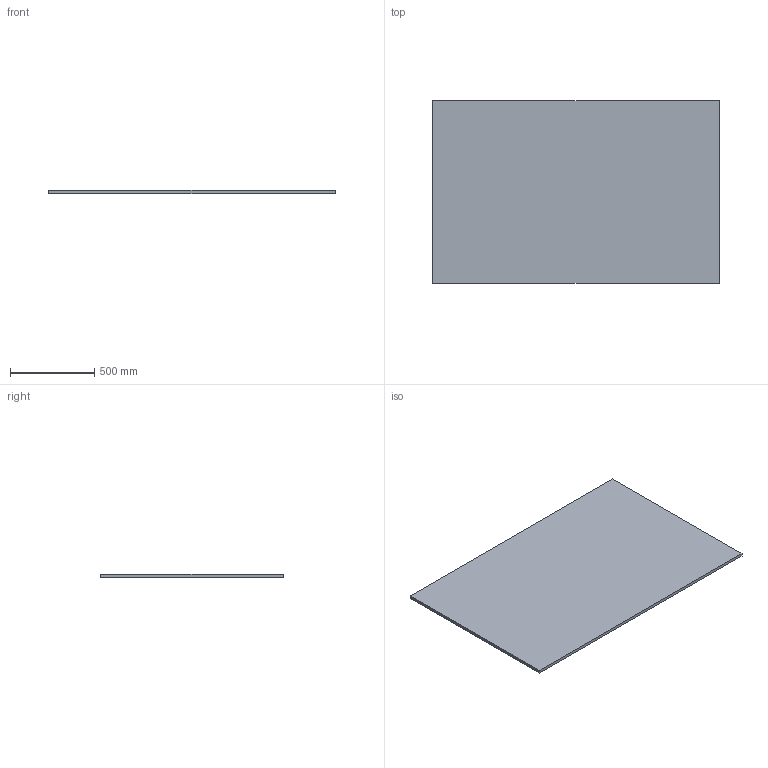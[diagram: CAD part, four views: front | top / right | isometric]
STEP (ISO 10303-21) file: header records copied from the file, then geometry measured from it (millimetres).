
FILE_DESCRIPTION (( 'STEP AP214' ), '1' );
FILE_NAME ('PSCHU0006.STEP', '2025-01-23T09:43:00', ( '' ), ( '' ), 'SwSTEP 2.0', 'SolidWorks 2022', '' );
FILE_SCHEMA (( 'AUTOMOTIVE_DESIGN' ));
Length unit declared in the file: millimetre
Products named in the file (1): PSCHU0006
Bounding box: 1705 x 1087.5 x 18 mm (x, y, z)
Volume: 33375375 mm3; surface area: 3808905 mm2
Topology: 1 solids, 1 shells, 6 faces, 12 edges, 8 vertices
Faces by surface type: plane 6
Entity records: 190 total; most frequent: CARTESIAN_POINT 27, DIRECTION 26, ORIENTED_EDGE 24, VECTOR 12, EDGE_CURVE 12, LINE 12, VERTEX_POINT 8, AXIS2_PLACEMENT_3D 7
